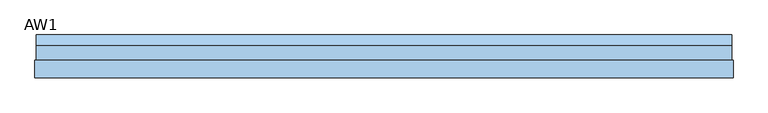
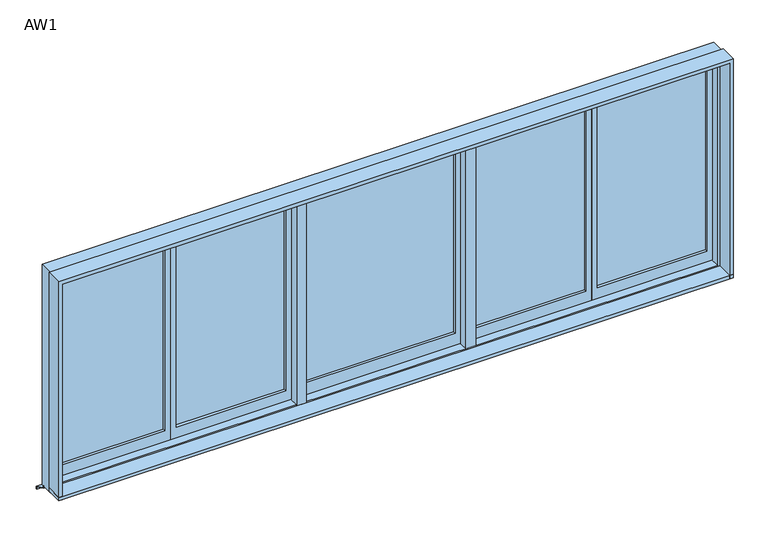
"""IFC4 building model written with IfcOpenShell, lengths in millimetres: window geometry, 営_連窓_両開き戸2+FIX1 : AW1."""

import ifcopenshell
import ifcopenshell.guid

model = None  # the IFC model being written
_history = None  # IfcOwnerHistory: only IFC2X3 demands one
_inside = {}  # id of a spatial element -> (the spatial element, [elements in it])
_under = {}  # id of a project, library or spatial element -> (it, [spatial elements below it])
_declared = {}  # id of a project -> (the project, [libraries it declares])
_typed = {}  # id of a type object -> (the type object, [elements of that type])
_made_of = {}  # id of a material, layer set ... -> (it, [elements and type objects made of it])


def new_model(schema):
    """Start an empty IFC model of exactly this schema.

    Asked for "IFC4X3", IfcOpenShell would pick the latest addendum, in which some entities
    have other attributes; the version numbers below select the first issue.
    IFC2X3 requires an IfcOwnerHistory on every rooted entity: one is made here for all.
    """
    global model, _history
    if schema == "IFC4X3":
        model = ifcopenshell.file(schema_version=(4, 3, 0, 0))
    else:
        model = ifcopenshell.file(schema=schema)
    _inside.clear()
    _under.clear()
    _declared.clear()
    _typed.clear()
    _made_of.clear()
    _history = None
    if model.schema == "IFC2X3":
        org = make("IfcOrganization", Name="unknown")
        user = make(
            "IfcPersonAndOrganization",
            ThePerson=make("IfcPerson", FamilyName="unknown"),
            TheOrganization=org,
        )
        app = make(
            "IfcApplication",
            ApplicationDeveloper=org,
            Version="unknown",
            ApplicationFullName="unknown",
            ApplicationIdentifier="unknown",
        )
        _history = make(
            "IfcOwnerHistory",
            OwningUser=user,
            OwningApplication=app,
            ChangeAction="ADDED",
            CreationDate=0,
        )
    return model


def make(cls, **values):
    """One entity of the class cls with the attributes given. An attribute that is None is left unset."""
    return model.create_entity(
        cls, **{name: value for name, value in values.items() if value is not None}
    )


def rooted(cls, **values):
    """An entity with a GlobalId (a new one), such as an element, a storey or a relation."""
    return make(cls, GlobalId=ifcopenshell.guid.new(), OwnerHistory=_history, **values)


def si_unit(unit_type, name, prefix=None):
    """IfcSIUnit, for example si_unit("LENGTHUNIT", "METRE", prefix="MILLI")."""
    return make("IfcSIUnit", UnitType=unit_type, Prefix=prefix, Name=name)


def assignment(units):
    """IfcUnitAssignment: the units of a project."""
    return None if units is None else make("IfcUnitAssignment", Units=units)


def point(xyz):
    """IfcCartesianPoint."""
    return None if xyz is None else make("IfcCartesianPoint", Coordinates=xyz)


def direction(xyz):
    """IfcDirection."""
    return None if xyz is None else make("IfcDirection", DirectionRatios=xyz)


def frame(location, z_axis=None, x_axis=None):
    """IfcAxis2Placement3D, a coordinate frame: its origin and axes. An axis left out is left unset."""
    return make(
        "IfcAxis2Placement3D",
        Location=point(location),
        Axis=direction(z_axis),
        RefDirection=direction(x_axis),
    )


def origin():
    """The frame at (0, 0, 0) with its axes left unset."""
    return frame((0.0, 0.0, 0.0))


def place(relative_to, where):
    """IfcLocalPlacement: puts the frame where relative to a parent placement (None: the world)."""
    return make(
        "IfcLocalPlacement", PlacementRelTo=relative_to, RelativePlacement=where
    )


def context(
    kind, dimensions, precision=None, world=None, true_north=None, identifier=None
):
    """IfcGeometricRepresentationContext, for example the 3D "Model" context."""
    return make(
        "IfcGeometricRepresentationContext",
        ContextIdentifier=identifier,
        ContextType=kind,
        CoordinateSpaceDimension=dimensions,
        Precision=precision,
        WorldCoordinateSystem=world,
        TrueNorth=true_north,
    )


def project(units=None, contexts=None):
    """IfcProject with its units and contexts."""
    return rooted(
        "IfcProject",
        Name="project",
        RepresentationContexts=contexts,
        UnitsInContext=assignment(units),
    )


def spatial(cls, under=None, at=None, **own):
    """A site, building, storey or space (cls), placed at a placement, below another one or the project."""
    s = rooted(cls, ObjectPlacement=at, **own)
    if under is not None:
        _under.setdefault(under.id(), (under, []))[1].append(s)
    return s


def polyline(points):
    """IfcPolyline through the points."""
    return make("IfcPolyline", Points=[point(p) for p in points])


def outline(outer, holes=None, kind="AREA"):
    """IfcArbitraryClosedProfileDef: a profile drawn as a closed curve; with holes, ...WithVoids."""
    if holes is None:
        return make("IfcArbitraryClosedProfileDef", ProfileType=kind, OuterCurve=outer)
    return make(
        "IfcArbitraryProfileDefWithVoids",
        ProfileType=kind,
        OuterCurve=outer,
        InnerCurves=holes,
    )


def extrude(swept, where, along, depth):
    """IfcExtrudedAreaSolid: the profile swept, set in the frame where, extruded along a direction by depth."""
    return make(
        "IfcExtrudedAreaSolid",
        SweptArea=swept,
        Position=where,
        ExtrudedDirection=direction(along),
        Depth=depth,
    )


def shape(context_of_items, identifier, shape_type, items):
    """IfcShapeRepresentation: the items that make up one representation, for example the "Body"."""
    return make(
        "IfcShapeRepresentation",
        ContextOfItems=context_of_items,
        RepresentationIdentifier=identifier,
        RepresentationType=shape_type,
        Items=items,
    )


def source(mapping_origin, context_of_items, identifier, shape_type, items):
    """IfcRepresentationMap: a shape defined once, which mapped items show again and again."""
    return make(
        "IfcRepresentationMap",
        MappingOrigin=mapping_origin,
        MappedRepresentation=shape(context_of_items, identifier, shape_type, items),
    )


def transform(
    local_origin,
    x_axis=None,
    y_axis=None,
    z_axis=None,
    scale=None,
    scale2=None,
    scale3=None,
    uniform=True,
):
    """IfcCartesianTransformationOperator3D, or its non-uniform kind. x_axis, y_axis, z_axis: its Axis1, 2, 3."""
    if uniform:
        return make(
            "IfcCartesianTransformationOperator3D",
            Axis1=direction(x_axis),
            Axis2=direction(y_axis),
            LocalOrigin=point(local_origin),
            Scale=scale,
            Axis3=direction(z_axis),
        )
    return make(
        "IfcCartesianTransformationOperator3DnonUniform",
        Axis1=direction(x_axis),
        Axis2=direction(y_axis),
        LocalOrigin=point(local_origin),
        Scale=scale,
        Axis3=direction(z_axis),
        Scale2=scale2,
        Scale3=scale3,
    )


def mapped(mapping_source, mapping_target):
    """IfcMappedItem: shows the shape of a source again, moved by a transform."""
    return make(
        "IfcMappedItem", MappingSource=mapping_source, MappingTarget=mapping_target
    )


def made_of(thing, what):
    """Note that an element or type object is made of a material, layer set ...; save() writes the relation."""
    if what is not None:
        _made_of.setdefault(what.id(), (what, []))[1].append(thing)
    return thing


def element(
    cls,
    number,
    at=None,
    inside=None,
    cuts=None,
    type_object=None,
    material=None,
    context=None,
    identifier="Body",
    shape_type=None,
    held_by="IfcProductDefinitionShape",
    body=None,
    shapes=None,
    **own,
):
    """One element of the class cls, such as IfcWall. Its Tag is "e" and its number.

    at: its placement. inside: the storey or other place that contains it. cuts: it is an
    opening in that element (IfcRelVoidsElement). A single representation is given by context,
    identifier, shape_type and body (its items); several are given by shapes. held_by: the class
    of the entity that holds the representations. save() writes the other relations.
    """
    e = rooted(cls, Tag="e%d" % number, ObjectPlacement=at, **own)
    if body is not None:
        shapes = [shape(context, identifier, shape_type, body)]
    if shapes is not None:
        e.Representation = make(held_by, Representations=shapes)
    if inside is not None:
        _inside.setdefault(inside.id(), (inside, []))[1].append(e)
    if cuts is not None:
        rooted(
            "IfcRelVoidsElement", RelatingBuildingElement=cuts, RelatedOpeningElement=e
        )
    if type_object is not None:
        _typed.setdefault(type_object.id(), (type_object, []))[1].append(e)
    return made_of(e, material)


def aggregate(whole, parts):
    """IfcRelAggregates: a whole, such as a stair, and the parts it consists of."""
    return rooted("IfcRelAggregates", RelatingObject=whole, RelatedObjects=parts)


def save(model, path):
    """Write the relations noted so far, then the file.

    IfcRelAggregates (storeys below a building ...), IfcRelContainedInSpatialStructure (elements
    in a storey), IfcRelDefinesByType, IfcRelAssociatesMaterial and IfcRelDeclares: one each for
    every whole, place, type object, material and project.
    """
    for whole, parts in _under.values():
        aggregate(whole, parts)
    for where, things in _inside.values():
        rooted(
            "IfcRelContainedInSpatialStructure",
            RelatedElements=things,
            RelatingStructure=where,
        )
    for kind, things in _typed.values():
        rooted("IfcRelDefinesByType", RelatedObjects=things, RelatingType=kind)
    for what, things in _made_of.values():
        rooted("IfcRelAssociatesMaterial", RelatedObjects=things, RelatingMaterial=what)
    for by, libraries in _declared.values():
        rooted("IfcRelDeclares", RelatingContext=by, RelatedDefinitions=libraries)
    model.write(path)


def aw1_359d20a0(model_context):
    return source(origin(), model_context, "Body", "SweptSolid", [
        extrude(outline(polyline([(1465.0, 10.0), (680.0, 10.0), (680.0, 15.0), (1465.0, 15.0), (1465.0, 10.0)])), frame((0.0, 0.0, 1180.0), z_axis=(0.0, 0.0, 1.0), x_axis=(1.0, 0.0, 0.0)), (0.0, 0.0, 1.0), 1465.0),
        extrude(outline(polyline([(1100.0, 1505.0), (2685.0, 1505.0), (2685.0, 640.0), (1100.0, 640.0), (1100.0, 1505.0)]), holes=[polyline([(1180.0, 1465.0), (1180.0, 680.0), (2645.0, 680.0), (2645.0, 1465.0), (1180.0, 1465.0)])]), frame((0.0, -10.0, 0.0), z_axis=(0.0, 1.0, 0.0), x_axis=(0.0, 0.0, 1.0)), (0.0, 0.0, 1.0), 30.0),
        extrude(outline(polyline([(2330.0, 10.0), (1545.0, 10.0), (1545.0, 15.0), (2330.0, 15.0), (2330.0, 10.0)])), frame((0.0, 0.0, 1180.0), z_axis=(0.0, 0.0, 1.0), x_axis=(1.0, 0.0, 0.0)), (0.0, 0.0, 1.0), 1465.0),
        extrude(outline(polyline([(1100.0, 2370.0), (2685.0, 2370.0), (2685.0, 1505.0), (1100.0, 1505.0), (1100.0, 2370.0)]), holes=[polyline([(1180.0, 2330.0), (1180.0, 1545.0), (2645.0, 1545.0), (2645.0, 2330.0), (1180.0, 2330.0)])]), frame((0.0, -10.0, 0.0), z_axis=(0.0, 1.0, 0.0), x_axis=(0.0, 0.0, 1.0)), (0.0, 0.0, 1.0), 30.0),
        extrude(outline(polyline([(530.0, 10.0), (-530.0, 10.0), (-530.0, 15.0), (530.0, 15.0), (530.0, 10.0)])), frame((0.0, 0.0, 1190.0), z_axis=(0.0, 0.0, 1.0), x_axis=(1.0, 0.0, 0.0)), (0.0, 0.0, 1.0), 1455.0),
        extrude(outline(polyline([(1100.0, 570.0), (2685.0, 570.0), (2685.0, -570.0), (1100.0, -570.0), (1100.0, 570.0)]), holes=[polyline([(1190.0, 530.0), (1190.0, -530.0), (2645.0, -530.0), (2645.0, 530.0), (1190.0, 530.0)])]), frame((0.0, -10.0, 0.0), z_axis=(0.0, 1.0, 0.0), x_axis=(0.0, 0.0, 1.0)), (0.0, 0.0, 1.0), 30.0),
        extrude(outline(polyline([(-1545.0, 10.0), (-2330.0, 10.0), (-2330.0, 15.0), (-1545.0, 15.0), (-1545.0, 10.0)])), frame((0.0, 0.0, 1180.0), z_axis=(0.0, 0.0, 1.0), x_axis=(1.0, 0.0, 0.0)), (0.0, 0.0, 1.0), 1465.0),
        extrude(outline(polyline([(1100.0, -1505.0), (2685.0, -1505.0), (2685.0, -2370.0), (1100.0, -2370.0), (1100.0, -1505.0)]), holes=[polyline([(1180.0, -1545.0), (1180.0, -2330.0), (2645.0, -2330.0), (2645.0, -1545.0), (1180.0, -1545.0)])]), frame((0.0, -10.0, 0.0), z_axis=(0.0, 1.0, 0.0), x_axis=(0.0, 0.0, 1.0)), (0.0, 0.0, 1.0), 30.0),
        extrude(outline(polyline([(-680.0, 10.0), (-1465.0, 10.0), (-1465.0, 15.0), (-680.0, 15.0), (-680.0, 10.0)])), frame((0.0, 0.0, 1180.0), z_axis=(0.0, 0.0, 1.0), x_axis=(1.0, 0.0, 0.0)), (0.0, 0.0, 1.0), 1465.0),
        extrude(outline(polyline([(1100.0, -640.0), (2685.0, -640.0), (2685.0, -1505.0), (1100.0, -1505.0), (1100.0, -640.0)]), holes=[polyline([(1180.0, -680.0), (1180.0, -1465.0), (2645.0, -1465.0), (2645.0, -680.0), (1180.0, -680.0)])]), frame((0.0, -10.0, 0.0), z_axis=(0.0, 1.0, 0.0), x_axis=(0.0, 0.0, 1.0)), (0.0, 0.0, 1.0), 30.0),
        extrude(outline(polyline([(-570.0, -75.0), (-640.0, -75.0), (-640.0, 25.0), (-570.0, 25.0), (-570.0, -75.0)])), frame((0.0, 0.0, 1090.0), z_axis=(0.0, 0.0, 1.0), x_axis=(1.0, 0.0, 0.0)), (0.0, 0.0, 1.0), 1595.0),
        extrude(outline(polyline([(640.0, -75.0), (570.0, -75.0), (570.0, 25.0), (640.0, 25.0), (640.0, -75.0)])), frame((0.0, 0.0, 1090.0), z_axis=(0.0, 0.0, 1.0), x_axis=(1.0, 0.0, 0.0)), (0.0, 0.0, 1.0), 1595.0),
        extrude(outline(polyline([(2410.0, -195.0), (-2410.0, -195.0), (-2410.0, -75.0), (2410.0, -75.0), (2410.0, -195.0)])), frame((0.0, 0.0, 1065.0), z_axis=(0.0, 0.0, 1.0), x_axis=(1.0, 0.0, 0.0)), (0.0, 0.0, 1.0), 25.0),
        extrude(outline(polyline([(15.0, 1035.0), (100.0, 995.0), (100.0, 975.0), (95.0014518, 975.0), (95.0014518, 991.8262891), (10.0, 1031.8269723), (10.0, 1050.0), (15.0, 1050.0), (15.0, 1035.0)])), frame((-2400.0, 0.0, 0.0), z_axis=(1.0, 0.0, 0.0), x_axis=(0.0, 1.0, 0.0)), (0.0, 0.0, 1.0), 4800.0),
        extrude(outline(polyline([(1065.0, -2410.0), (1065.0, -2385.0), (2695.0, -2385.0), (2695.0, 2385.0), (1065.0, 2385.0), (1065.0, 2410.0), (2720.0, 2410.0), (2720.0, -2410.0), (1065.0, -2410.0)])), frame((0.0, -195.0, 0.0), z_axis=(0.0, 1.0, 0.0), x_axis=(0.0, 0.0, 1.0)), (0.0, 0.0, 1.0), 120.0),
        extrude(outline(polyline([(1050.0, -2400.0), (1050.0, -2370.0), (2685.0, -2370.0), (2685.0, 2370.0), (1050.0, 2370.0), (1050.0, 2400.0), (2715.0, 2400.0), (2715.0, -2400.0), (1050.0, -2400.0)])), frame((0.0, -75.0, 0.0), z_axis=(0.0, 1.0, 0.0), x_axis=(0.0, 0.0, 1.0)), (0.0, 0.0, 1.0), 100.0),
        extrude(outline(polyline([(-75.0, 1050.0), (-75.0, 1100.0), (25.0, 1090.6666667), (25.0, 1050.0), (-75.0, 1050.0)])), frame((-2370.0, 0.0, 0.0), z_axis=(1.0, 0.0, 0.0), x_axis=(0.0, 1.0, 0.0)), (0.0, 0.0, 1.0), 4740.0),
    ])


if __name__ == "__main__":
    model = new_model("IFC4")
    model_context = context("Model", 3, world=origin())
    ifc_project = project(units=[si_unit("LENGTHUNIT", "METRE", prefix="MILLI")], contexts=[model_context])
    site = spatial("IfcSite", under=ifc_project)
    building = spatial("IfcBuilding", under=site)
    placement = place(None, origin())
    aw1_shape = aw1_359d20a0(model_context)
    element("IfcWindow", 1, ObjectType="営_連窓_両開き戸2+FIX1 : AW1", at=placement, inside=building, context=model_context, shape_type="MappedRepresentation", body=[
        mapped(aw1_shape, transform((0.0, 0.0, 0.0), x_axis=(1.0, 0.0, 0.0), y_axis=(0.0, 1.0, 0.0), z_axis=(0.0, 0.0, 1.0))),
    ])
    save(model, "model.ifc")
